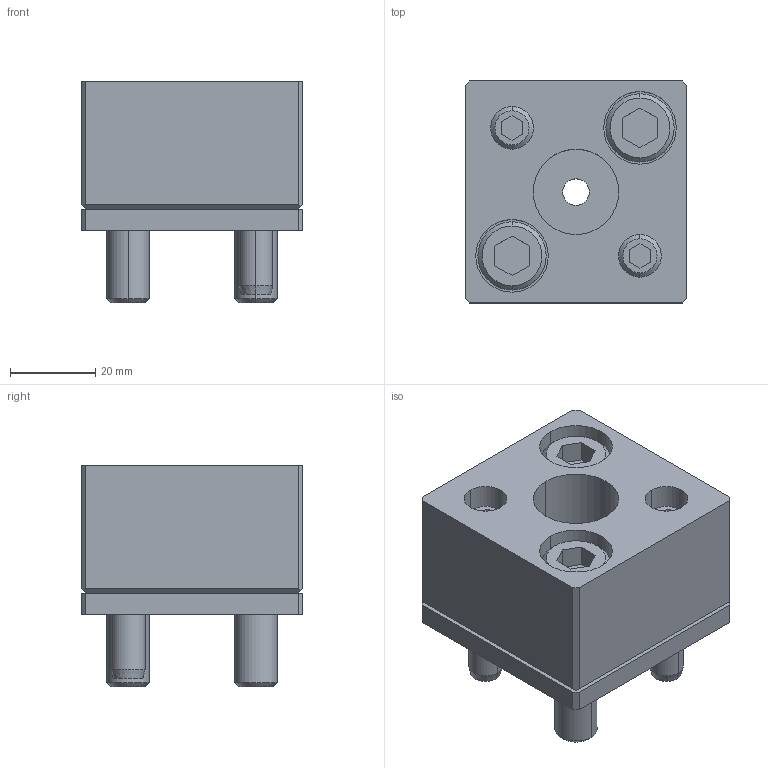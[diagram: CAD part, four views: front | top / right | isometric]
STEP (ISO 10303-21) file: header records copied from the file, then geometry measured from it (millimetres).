
FILE_DESCRIPTION(/* description */ (''),/* implementation_level */ '2;1');
FILE_NAME(/* name */ '3d_sa-fp20_03071_r00.stp',/* time_stamp */ '2011-01-10T14:11:28+09:00',/* author */ ('MISUMI'),/* organization */ (''),/* preprocessor_version */ 'ST-DEVELOPER v11',/* originating_system */ 'UGS - NX 5.0',/* authorisation */ '');
FILE_SCHEMA (('CONFIG_CONTROL_DESIGN'));
Length unit declared in the file: millimetre
Products named in the file (1): 3d_sa-fp20_03071_r00
Bounding box: 52 x 52 x 52 mm (x, y, z)
Volume: 82422 mm3; surface area: 30360.3 mm2
Topology: 8 solids, 8 shells, 159 faces, 362 edges, 233 vertices
Faces by surface type: plane 78, cylinder 55, cone 26
Entity records: 4620 total; most frequent: DIRECTION 814, CARTESIAN_POINT 800, ORIENTED_EDGE 724, EDGE_CURVE 362, AXIS2_PLACEMENT_3D 297, VERTEX_POINT 233, LINE 220, VECTOR 220
